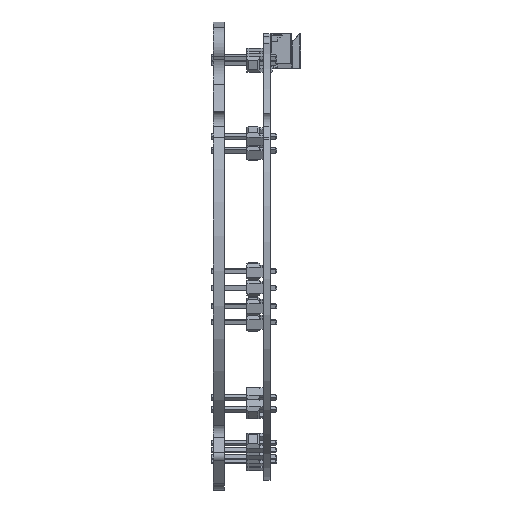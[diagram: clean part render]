
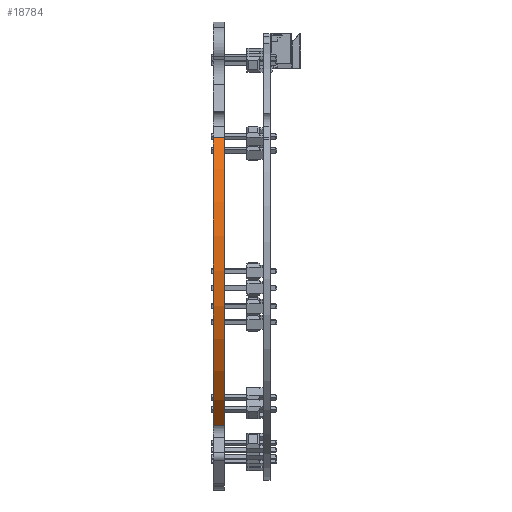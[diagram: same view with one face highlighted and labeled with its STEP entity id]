
A CAD part, left-side view. The second image highlights one B-rep face of the part: STEP entity #18784.
In plain terms, the highlighted cylindrical face has radius 34.4 mm (diameter 68.8 mm), a partial arc.
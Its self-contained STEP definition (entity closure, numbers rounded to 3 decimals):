
#258 = DIRECTION ( 'NONE',  ( 0., -1., 0. ) ) ;
#482 = EDGE_CURVE ( 'NONE', #15812, #13788, #12356, .T. ) ;
#719 = DIRECTION ( 'NONE',  ( 0., 0., 1. ) ) ;
#1357 = DIRECTION ( 'NONE',  ( 0., 1., 0. ) ) ;
#1508 = CARTESIAN_POINT ( 'NONE',  ( 29.007, 0., 18.492 ) ) ;
#1549 = CARTESIAN_POINT ( 'NONE',  ( 23.044, -14.036, -25.541 ) ) ;
#2648 = DIRECTION ( 'NONE',  ( 0., 0., -1. ) ) ;
#2758 = EDGE_CURVE ( 'NONE', #7380, #15812, #6252, .T. ) ;
#2909 = VECTOR ( 'NONE', #1357, 1000. ) ;
#5579 = CIRCLE ( 'NONE', #10364, 34.4 ) ;
#5724 = ORIENTED_EDGE ( 'NONE', *, *, #2758, .T. ) ;
#6042 = LINE ( 'NONE', #1549, #2909 ) ;
#6156 = CARTESIAN_POINT ( 'NONE',  ( 29.007, 10., 18.492 ) ) ;
#6252 = LINE ( 'NONE', #6156, #16865 ) ;
#6488 = ORIENTED_EDGE ( 'NONE', *, *, #11063, .T. ) ;
#6672 = CARTESIAN_POINT ( 'NONE',  ( 29.007, 1.7, 18.492 ) ) ;
#6720 = AXIS2_PLACEMENT_3D ( 'NONE', #14835, #16334, #2648 ) ;
#7223 = FACE_OUTER_BOUND ( 'NONE', #7323, .T. ) ;
#7323 = EDGE_LOOP ( 'NONE', ( #8540, #5724, #15317, #6488 ) ) ;
#7380 = VERTEX_POINT ( 'NONE', #6672 ) ;
#7439 = DIRECTION ( 'NONE',  ( 0., 0., 1. ) ) ;
#8201 = DIRECTION ( 'NONE',  ( 0., 1., 0. ) ) ;
#8540 = ORIENTED_EDGE ( 'NONE', *, *, #12103, .F. ) ;
#10170 = VERTEX_POINT ( 'NONE', #17855 ) ;
#10364 = AXIS2_PLACEMENT_3D ( 'NONE', #19329, #8201, #719 ) ;
#11063 = EDGE_CURVE ( 'NONE', #13788, #10170, #6042, .T. ) ;
#12103 = EDGE_CURVE ( 'NONE', #7380, #10170, #5579, .T. ) ;
#12356 = CIRCLE ( 'NONE', #13011, 34.4 ) ;
#13011 = AXIS2_PLACEMENT_3D ( 'NONE', #16654, #18362, #7439 ) ;
#13788 = VERTEX_POINT ( 'NONE', #15448 ) ;
#14835 = CARTESIAN_POINT ( 'NONE',  ( 0., 1.7, 0. ) ) ;
#15317 = ORIENTED_EDGE ( 'NONE', *, *, #482, .T. ) ;
#15448 = CARTESIAN_POINT ( 'NONE',  ( 23.044, 0., -25.541 ) ) ;
#15812 = VERTEX_POINT ( 'NONE', #1508 ) ;
#16334 = DIRECTION ( 'NONE',  ( 0., -1., 0. ) ) ;
#16654 = CARTESIAN_POINT ( 'NONE',  ( 0., 0., 0. ) ) ;
#16865 = VECTOR ( 'NONE', #258, 1000. ) ;
#17855 = CARTESIAN_POINT ( 'NONE',  ( 23.044, 1.7, -25.541 ) ) ;
#17856 = CYLINDRICAL_SURFACE ( 'NONE', #6720, 34.4 ) ;
#18362 = DIRECTION ( 'NONE',  ( 0., 1., 0. ) ) ;
#18784 = ADVANCED_FACE ( 'NONE', ( #7223 ), #17856, .T. ) ;
#19329 = CARTESIAN_POINT ( 'NONE',  ( 0., 1.7, 0. ) ) ;
